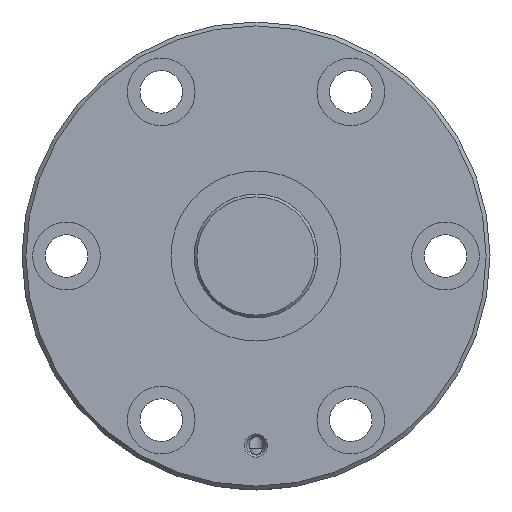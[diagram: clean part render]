
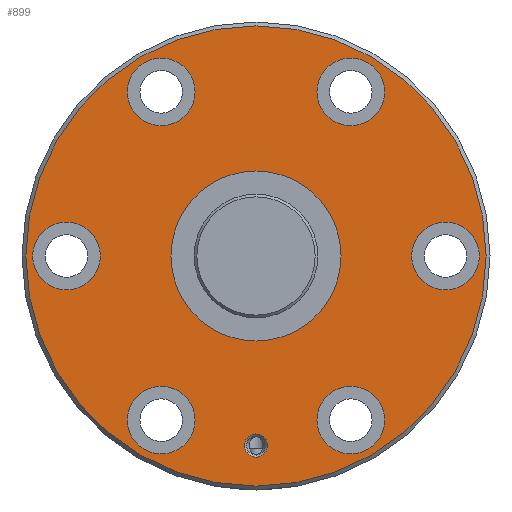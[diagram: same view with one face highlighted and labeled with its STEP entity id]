
A CAD part, left-side view. The second image highlights one B-rep face of the part: STEP entity #899.
In plain terms, the highlighted planar face has unit normal (-1, 0, 0).
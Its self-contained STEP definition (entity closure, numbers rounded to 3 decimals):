
#147=ORIENTED_EDGE('',*,*,#340,.T.);
#148=ORIENTED_EDGE('',*,*,#341,.T.);
#149=ORIENTED_EDGE('',*,*,#342,.T.);
#150=ORIENTED_EDGE('',*,*,#343,.T.);
#151=ORIENTED_EDGE('',*,*,#344,.T.);
#152=ORIENTED_EDGE('',*,*,#345,.T.);
#153=ORIENTED_EDGE('',*,*,#346,.T.);
#154=ORIENTED_EDGE('',*,*,#347,.T.);
#155=ORIENTED_EDGE('',*,*,#339,.F.);
#339=EDGE_CURVE('',#439,#439,#522,.T.);
#340=EDGE_CURVE('',#440,#440,#523,.T.);
#341=EDGE_CURVE('',#441,#441,#524,.F.);
#342=EDGE_CURVE('',#442,#442,#525,.T.);
#343=EDGE_CURVE('',#443,#443,#526,.T.);
#344=EDGE_CURVE('',#444,#444,#527,.T.);
#345=EDGE_CURVE('',#445,#445,#528,.T.);
#346=EDGE_CURVE('',#446,#446,#529,.T.);
#347=EDGE_CURVE('',#447,#447,#530,.T.);
#439=VERTEX_POINT('',#1508);
#440=VERTEX_POINT('',#1511);
#441=VERTEX_POINT('',#1513);
#442=VERTEX_POINT('',#1515);
#443=VERTEX_POINT('',#1517);
#444=VERTEX_POINT('',#1519);
#445=VERTEX_POINT('',#1521);
#446=VERTEX_POINT('',#1523);
#447=VERTEX_POINT('',#1525);
#522=CIRCLE('',#1005,59.5);
#523=CIRCLE('',#1007,22.);
#524=CIRCLE('',#1008,8.75);
#525=CIRCLE('',#1009,3.);
#526=CIRCLE('',#1010,8.75);
#527=CIRCLE('',#1011,8.75);
#528=CIRCLE('',#1012,8.75);
#529=CIRCLE('',#1013,8.75);
#530=CIRCLE('',#1014,8.75);
#602=EDGE_LOOP('',(#147));
#603=EDGE_LOOP('',(#148));
#604=EDGE_LOOP('',(#149));
#605=EDGE_LOOP('',(#150));
#606=EDGE_LOOP('',(#151));
#607=EDGE_LOOP('',(#152));
#608=EDGE_LOOP('',(#153));
#609=EDGE_LOOP('',(#154));
#610=EDGE_LOOP('',(#155));
#742=FACE_BOUND('',#602,.T.);
#743=FACE_BOUND('',#603,.T.);
#744=FACE_BOUND('',#604,.T.);
#745=FACE_BOUND('',#605,.T.);
#746=FACE_BOUND('',#606,.T.);
#747=FACE_BOUND('',#607,.T.);
#748=FACE_BOUND('',#608,.T.);
#749=FACE_BOUND('',#609,.T.);
#750=FACE_BOUND('',#610,.T.);
#864=PLANE('',#1006);
#899=ADVANCED_FACE('',(#742,#743,#744,#745,#746,#747,#748,#749,#750),#864,
 .T.);
#1005=AXIS2_PLACEMENT_3D('',#1507,#1171,#1172);
#1006=AXIS2_PLACEMENT_3D('',#1509,#1173,#1174);
#1007=AXIS2_PLACEMENT_3D('',#1510,#1175,#1176);
#1008=AXIS2_PLACEMENT_3D('',#1512,#1177,#1178);
#1009=AXIS2_PLACEMENT_3D('',#1514,#1179,#1180);
#1010=AXIS2_PLACEMENT_3D('',#1516,#1181,#1182);
#1011=AXIS2_PLACEMENT_3D('',#1518,#1183,#1184);
#1012=AXIS2_PLACEMENT_3D('',#1520,#1185,#1186);
#1013=AXIS2_PLACEMENT_3D('',#1522,#1187,#1188);
#1014=AXIS2_PLACEMENT_3D('',#1524,#1189,#1190);
#1171=DIRECTION('',(1.,0.,0.));
#1172=DIRECTION('',(0.,0.,-1.));
#1173=DIRECTION('',(-1.,0.,0.));
#1174=DIRECTION('',(0.,0.,1.));
#1175=DIRECTION('',(1.,0.,0.));
#1176=DIRECTION('',(0.,0.,-1.));
#1177=DIRECTION('',(-1.,0.,0.));
#1178=DIRECTION('',(0.,0.,1.));
#1179=DIRECTION('',(1.,0.,0.));
#1180=DIRECTION('',(0.,0.,-1.));
#1181=DIRECTION('',(1.,0.,0.));
#1182=DIRECTION('',(0.,0.,-1.));
#1183=DIRECTION('',(1.,0.,0.));
#1184=DIRECTION('',(0.,0.,-1.));
#1185=DIRECTION('',(1.,0.,0.));
#1186=DIRECTION('',(0.,0.,-1.));
#1187=DIRECTION('',(1.,0.,0.));
#1188=DIRECTION('',(0.,0.,-1.));
#1189=DIRECTION('',(1.,0.,0.));
#1190=DIRECTION('',(0.,0.,-1.));
#1507=CARTESIAN_POINT('',(0.,0.,0.));
#1508=CARTESIAN_POINT('',(0.,0.,-59.5));
#1509=CARTESIAN_POINT('',(0.,59.5,0.));
#1510=CARTESIAN_POINT('',(0.,0.,0.));
#1511=CARTESIAN_POINT('',(0.,0.,-22.));
#1512=CARTESIAN_POINT('',(0.,49.,0.));
#1513=CARTESIAN_POINT('',(0.,49.,8.75));
#1514=CARTESIAN_POINT('',(0.,0.,-49.));
#1515=CARTESIAN_POINT('',(0.,0.,-52.));
#1516=CARTESIAN_POINT('',(0.,-49.,0.));
#1517=CARTESIAN_POINT('',(0.,-49.,-8.75));
#1518=CARTESIAN_POINT('',(0.,24.5,42.435));
#1519=CARTESIAN_POINT('',(0.,24.5,33.685));
#1520=CARTESIAN_POINT('',(0.,-24.5,-42.435));
#1521=CARTESIAN_POINT('',(0.,-24.5,-51.185));
#1522=CARTESIAN_POINT('',(0.,-24.5,42.435));
#1523=CARTESIAN_POINT('',(0.,-24.5,33.685));
#1524=CARTESIAN_POINT('',(0.,24.5,-42.435));
#1525=CARTESIAN_POINT('',(0.,24.5,-51.185));
